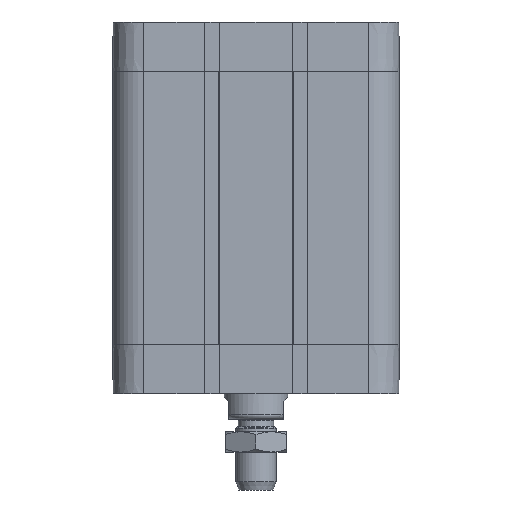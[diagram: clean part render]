
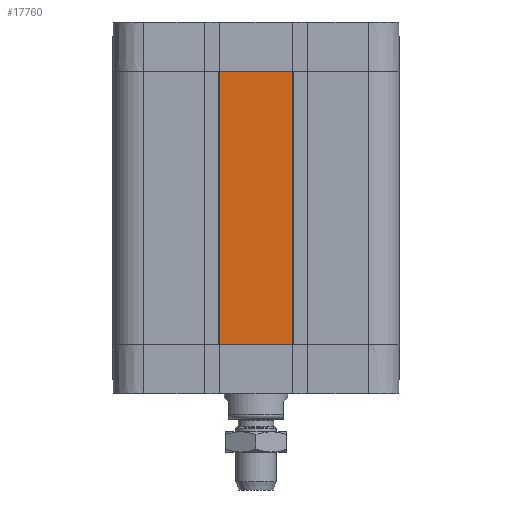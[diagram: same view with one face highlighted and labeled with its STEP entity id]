
A CAD part, left-side view. The second image highlights one B-rep face of the part: STEP entity #17760.
In plain terms, the highlighted planar face has unit normal (-1, 0, 0).
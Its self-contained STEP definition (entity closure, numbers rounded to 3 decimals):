
#926=PLANE('',#18739);
#1696=LINE('',#25731,#2804);
#1697=LINE('',#25734,#2805);
#1698=LINE('',#25736,#2806);
#1699=LINE('',#25738,#2807);
#2804=VECTOR('',#21077,1000.);
#2805=VECTOR('',#21078,1000.);
#2806=VECTOR('',#21079,1000.);
#2807=VECTOR('',#21080,1000.);
#5068=ORIENTED_EDGE('',*,*,#8116,.F.);
#5069=ORIENTED_EDGE('',*,*,#8117,.T.);
#5070=ORIENTED_EDGE('',*,*,#8118,.F.);
#5071=ORIENTED_EDGE('',*,*,#8119,.T.);
#8116=EDGE_CURVE('',#9743,#9744,#1696,.T.);
#8117=EDGE_CURVE('',#9743,#9745,#1697,.T.);
#8118=EDGE_CURVE('',#9746,#9745,#1698,.T.);
#8119=EDGE_CURVE('',#9746,#9744,#1699,.T.);
#9743=VERTEX_POINT('',#25732);
#9744=VERTEX_POINT('',#25733);
#9745=VERTEX_POINT('',#25735);
#9746=VERTEX_POINT('',#25737);
#11308=EDGE_LOOP('',(#5068,#5069,#5070,#5071));
#12254=FACE_BOUND('',#11308,.T.);
#17760=ADVANCED_FACE('',(#12254),#926,.T.);
#18739=AXIS2_PLACEMENT_3D('',#25730,#21075,#21076);
#21075=DIRECTION('',(-1.,0.,0.));
#21076=DIRECTION('',(0.,0.,1.));
#21077=DIRECTION('',(0.,0.,1.));
#21078=DIRECTION('',(0.,-1.,0.));
#21079=DIRECTION('',(0.,0.,-1.));
#21080=DIRECTION('',(0.,1.,0.));
#25730=CARTESIAN_POINT('',(-56.75,-56.75,0.));
#25731=CARTESIAN_POINT('',(-56.75,14.5,-16.5));
#25732=CARTESIAN_POINT('',(-56.75,14.5,-91.5));
#25733=CARTESIAN_POINT('',(-56.75,14.5,16.5));
#25734=CARTESIAN_POINT('',(-56.75,14.5,-91.5));
#25735=CARTESIAN_POINT('',(-56.75,-14.5,-91.5));
#25736=CARTESIAN_POINT('',(-56.75,-14.5,16.5));
#25737=CARTESIAN_POINT('',(-56.75,-14.5,16.5));
#25738=CARTESIAN_POINT('',(-56.75,-14.5,16.5));
